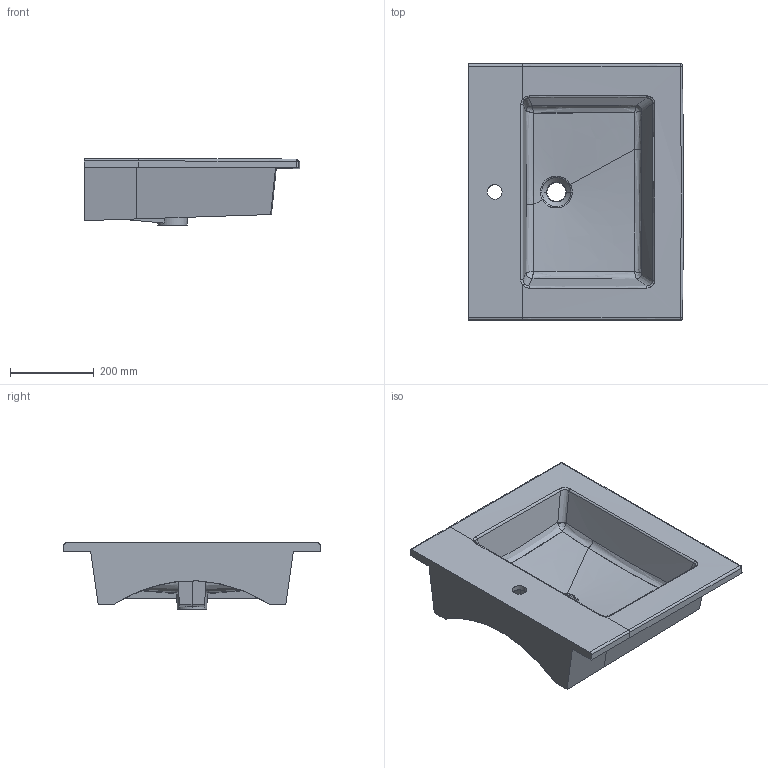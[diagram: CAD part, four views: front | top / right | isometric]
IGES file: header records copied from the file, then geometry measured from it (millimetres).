
Start section: START RECORD GO HERE.
Global section: file name: 2045_Lav PLUS 61.igs; native system: DASSAULT SYSTEMES CATIA V5 R19 - www.3ds.com; preprocessor: CATIA Version 5 Release 19 SP 5 ; author: gioge; organization: LAPTOP-G94B6G74; date: 20200622.115836; units: millimetre
Bounding box: 513.7 x 611.4 x 157.5 mm (x, y, z)
Surface area: 1131002 mm2 (no closed solid volume)
Topology: 0 solids, 0 shells, 145 faces, 737 edges, 731 vertices
Faces by surface type: bspline 98, plane 25, revolution 13, extrusion 9
